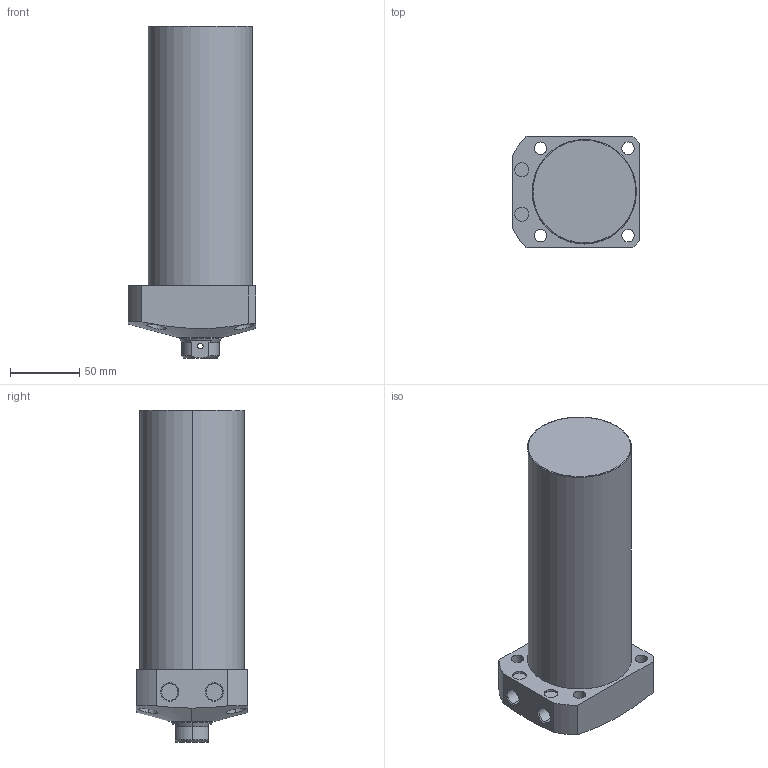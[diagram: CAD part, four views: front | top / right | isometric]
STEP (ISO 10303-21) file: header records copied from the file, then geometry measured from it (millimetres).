
FILE_DESCRIPTION (( 'STEP AP203' ), '1' );
FILE_NAME ('CLL-075CB-150.STEP', '2019-12-24T00:26:23', ( '' ), ( '' ), 'SwSTEP 2.0', 'SolidWorks 2015', '' );
FILE_SCHEMA (( 'CONFIG_CONTROL_DESIGN' ));
Length unit declared in the file: millimetre
Products named in the file (1): CLL-075CB-150
Bounding box: 92 x 80 x 239 mm (x, y, z)
Volume: 1045071.2 mm3; surface area: 76474 mm2
Topology: 1 solids, 1 shells, 78 faces, 183 edges, 116 vertices
Faces by surface type: cylinder 39, plane 22, cone 15, torus 2
Entity records: 2862 total; most frequent: CARTESIAN_POINT 955, DIRECTION 396, ORIENTED_EDGE 362, EDGE_CURVE 181, AXIS2_PLACEMENT_3D 164, VERTEX_POINT 116, EDGE_LOOP 101, CIRCLE 85
